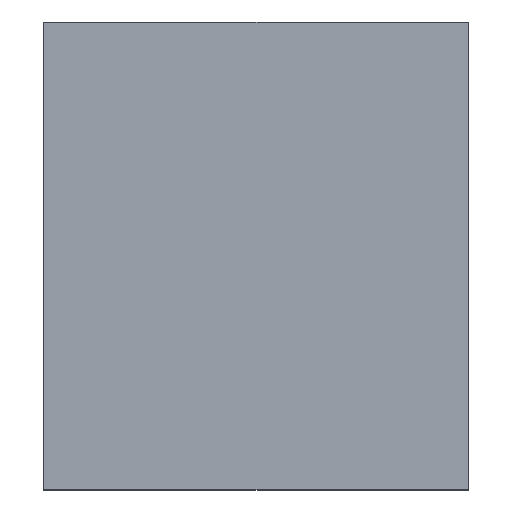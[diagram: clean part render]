
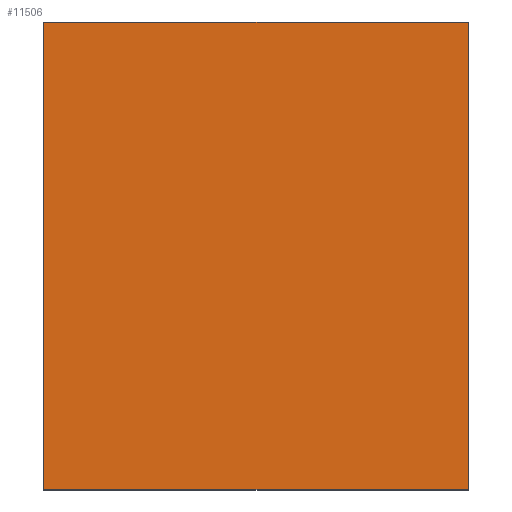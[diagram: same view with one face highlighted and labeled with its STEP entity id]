
A CAD part, top view. The second image highlights one B-rep face of the part: STEP entity #11506.
In plain terms, the highlighted planar face has unit normal (0, 0, 1).
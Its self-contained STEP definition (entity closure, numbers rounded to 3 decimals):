
#98 = CARTESIAN_POINT ( 'NONE',  ( 0., 0., 4.1 ) ) ;
#862 = VECTOR ( 'NONE', #10238, 1000. ) ;
#942 = CARTESIAN_POINT ( 'NONE',  ( -2.5, -2.75, 4.1 ) ) ;
#1284 = DIRECTION ( 'NONE',  ( 0., 0., 1. ) ) ;
#1359 = DIRECTION ( 'NONE',  ( 1., 0., 0. ) ) ;
#1722 = EDGE_CURVE ( 'NONE', #6930, #3816, #7060, .T. ) ;
#1824 = ORIENTED_EDGE ( 'NONE', *, *, #12612, .T. ) ;
#2202 = VECTOR ( 'NONE', #12693, 1000. ) ;
#3659 = CARTESIAN_POINT ( 'NONE',  ( 2.5, -2.75, 4.1 ) ) ;
#3816 = VERTEX_POINT ( 'NONE', #3659 ) ;
#4201 = ORIENTED_EDGE ( 'NONE', *, *, #10207, .T. ) ;
#4221 = CARTESIAN_POINT ( 'NONE',  ( 2.5, -2.75, 4.1 ) ) ;
#4733 = VECTOR ( 'NONE', #12363, 1000. ) ;
#4981 = EDGE_LOOP ( 'NONE', ( #6222, #8470, #1824, #4201 ) ) ;
#6222 = ORIENTED_EDGE ( 'NONE', *, *, #13475, .T. ) ;
#6930 = VERTEX_POINT ( 'NONE', #7907 ) ;
#7060 = LINE ( 'NONE', #942, #12234 ) ;
#7120 = DIRECTION ( 'NONE',  ( 1., 0., 0. ) ) ;
#7838 = VERTEX_POINT ( 'NONE', #9872 ) ;
#7907 = CARTESIAN_POINT ( 'NONE',  ( -2.5, -2.75, 4.1 ) ) ;
#8264 = PLANE ( 'NONE',  #11612 ) ;
#8470 = ORIENTED_EDGE ( 'NONE', *, *, #1722, .T. ) ;
#9060 = CARTESIAN_POINT ( 'NONE',  ( 2.5, 2.75, 4.1 ) ) ;
#9193 = LINE ( 'NONE', #9060, #4733 ) ;
#9313 = LINE ( 'NONE', #4221, #2202 ) ;
#9855 = VERTEX_POINT ( 'NONE', #10466 ) ;
#9872 = CARTESIAN_POINT ( 'NONE',  ( 2.5, 2.75, 4.1 ) ) ;
#10207 = EDGE_CURVE ( 'NONE', #7838, #9855, #9193, .T. ) ;
#10238 = DIRECTION ( 'NONE',  ( 0., -1., 0. ) ) ;
#10466 = CARTESIAN_POINT ( 'NONE',  ( -2.5, 2.75, 4.1 ) ) ;
#11506 = ADVANCED_FACE ( 'NONE', ( #13597 ), #8264, .T. ) ;
#11587 = LINE ( 'NONE', #12498, #862 ) ;
#11612 = AXIS2_PLACEMENT_3D ( 'NONE', #98, #1284, #1359 ) ;
#12234 = VECTOR ( 'NONE', #7120, 1000. ) ;
#12363 = DIRECTION ( 'NONE',  ( -1., 0., 0. ) ) ;
#12498 = CARTESIAN_POINT ( 'NONE',  ( -2.5, 2.75, 4.1 ) ) ;
#12612 = EDGE_CURVE ( 'NONE', #3816, #7838, #9313, .T. ) ;
#12693 = DIRECTION ( 'NONE',  ( 0., 1., 0. ) ) ;
#13475 = EDGE_CURVE ( 'NONE', #9855, #6930, #11587, .T. ) ;
#13597 = FACE_OUTER_BOUND ( 'NONE', #4981, .T. ) ;
